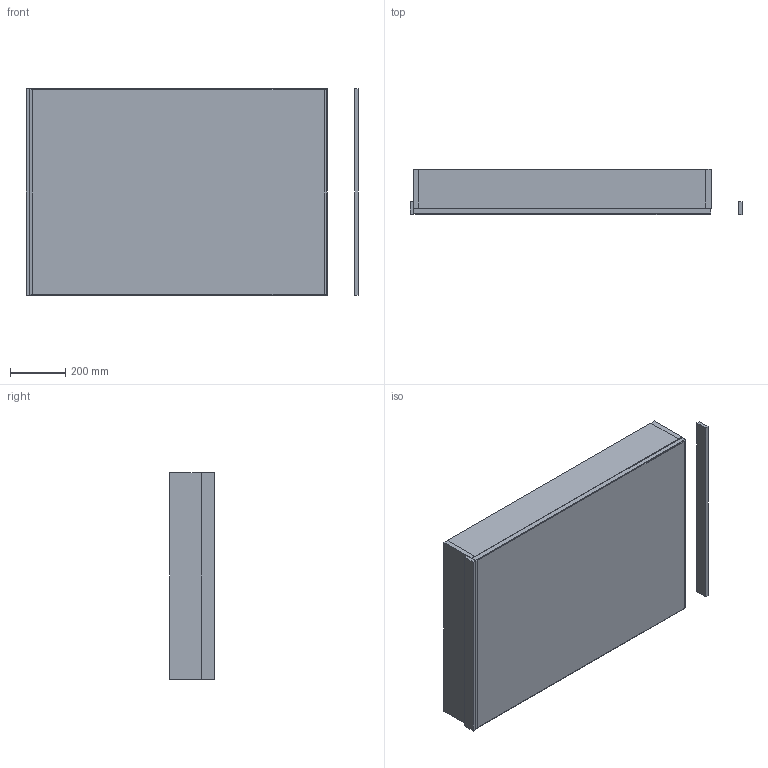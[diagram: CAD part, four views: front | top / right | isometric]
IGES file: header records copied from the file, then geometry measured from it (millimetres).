
Start section: Data from Parasolid IGES Translator 19.0.9, Copyright(c) 2006 Siemens PL M Software. All Rights Reserved.
Global section: file name: noorth-mirror-H 75 D 4,5-16 W 108_9152.igs; native system: By Siemens PLM Incorporated; preprocessor: XPlus GENERIC/IGES 19.0.9; author: Noname; organization: Noname; date: 20200519.112858; units: metre
Bounding box: 1203.82 x 162 x 750 mm (x, y, z)
Volume: 28364560 mm3; surface area: 6190857.1 mm2
Topology: 10 solids, 10 shells, 84 faces, 168 edges, 104 vertices
Faces by surface type: plane 84
